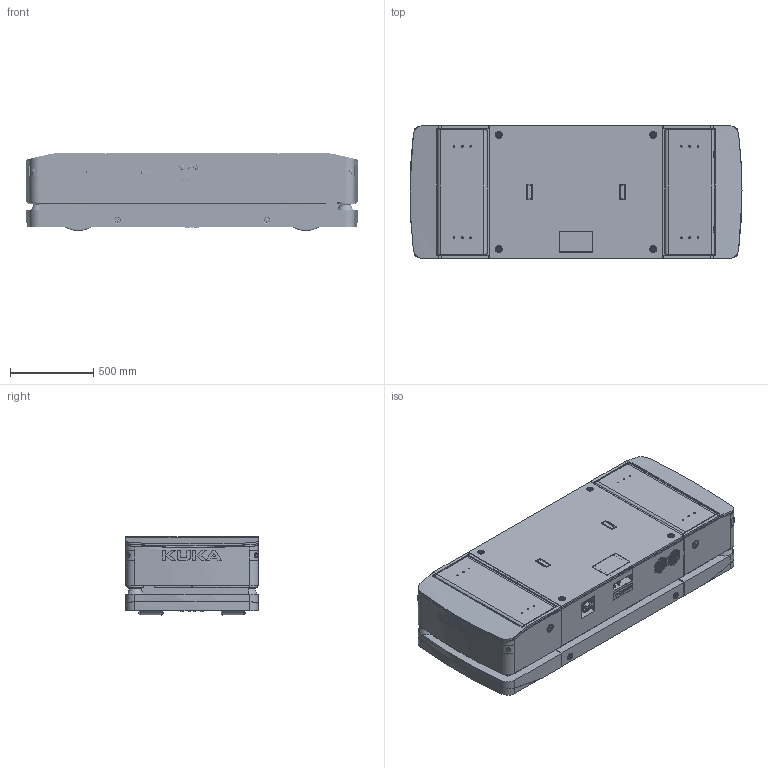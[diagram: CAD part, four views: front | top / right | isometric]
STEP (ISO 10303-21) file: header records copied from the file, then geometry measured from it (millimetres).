
FILE_DESCRIPTION(/* description */ (''),/* implementation_level */ '2;1');
FILE_NAME(/* name */ 'KMP 1500 simply.stp',/* time_stamp */ '2017-06-07T09:39:19+02:00',/* author */ (''),/* organization */ (''),/* preprocessor_version */ 'ST-DEVELOPER v15',/* originating_system */ 'SIEMENS PLM Software NX 9.0',/* authorisation */ '');
FILE_SCHEMA (('AUTOMOTIVE_DESIGN { 1 0 10303 214 3 1 1 1 }'));
Length unit declared in the file: millimetre
Products named in the file (1): long01C8F2FD61v1
Bounding box: 1999.99 x 801.32 x 469.91 mm (x, y, z)
Volume: 630263489.2 mm3; surface area: 10372876.9 mm2
Topology: 5 solids, 34 shells, 7143 faces, 18177 edges, 11746 vertices
Faces by surface type: plane 4374, cylinder 1717, cone 654, torus 200, bspline 140, sphere 34, extrusion 12, revolution 12
Full cylindrical faces by diameter (mm): 0.411 x83, 0.8 x1, 0.95 x1, 1.05 x1, 1.075 x12, 2.205 x1, 2.5 x2, 3 x13, 3.2 x2, 3.3 x1, 4.2 x2, 4.6 x4, 4.8 x2, 5 x10, 5.4 x1, 6 x6, 6.999 x1, 7 x1, 8 x12, 8.5 x32, 8.821 x4, 10 x28, 10.1 x16, 10.2 x4, 10.3 x4, 10.5 x16, 11 x1, 11.15 x1, 11.8 x1, 12 x33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
Entity records: 274254 total; most frequent: CARTESIAN_POINT 64914, ORIENTED_EDGE 35006, DIRECTION 33977, EDGE_CURVE 17503, AXIS2_PLACEMENT_3D 11739, VERTEX_POINT 11600, VECTOR 10487, LINE 10475
